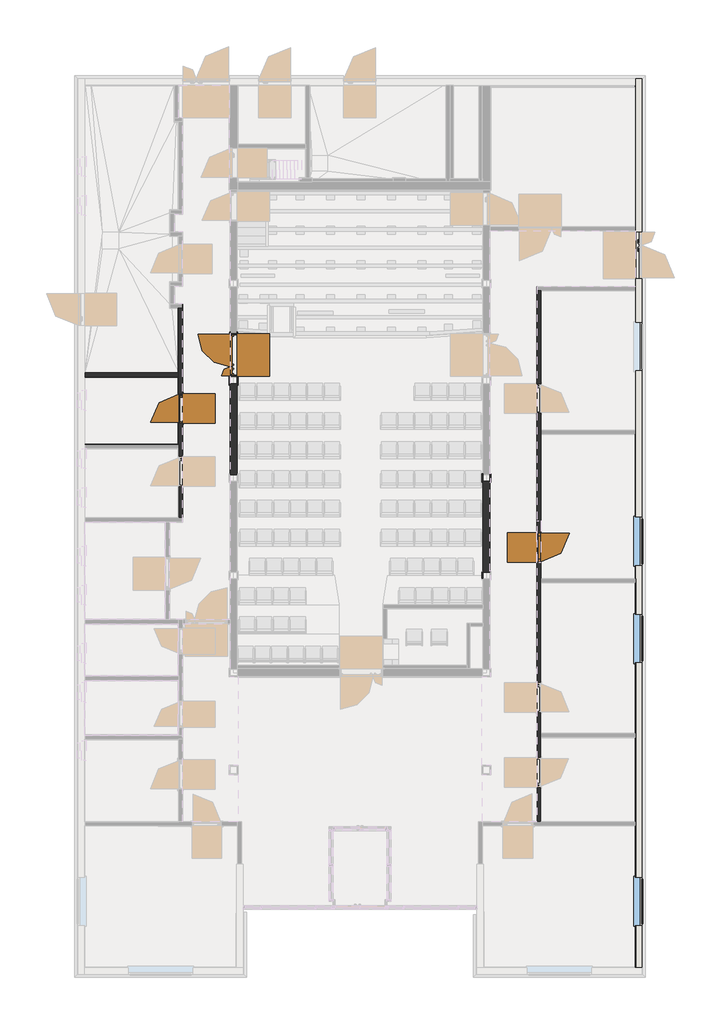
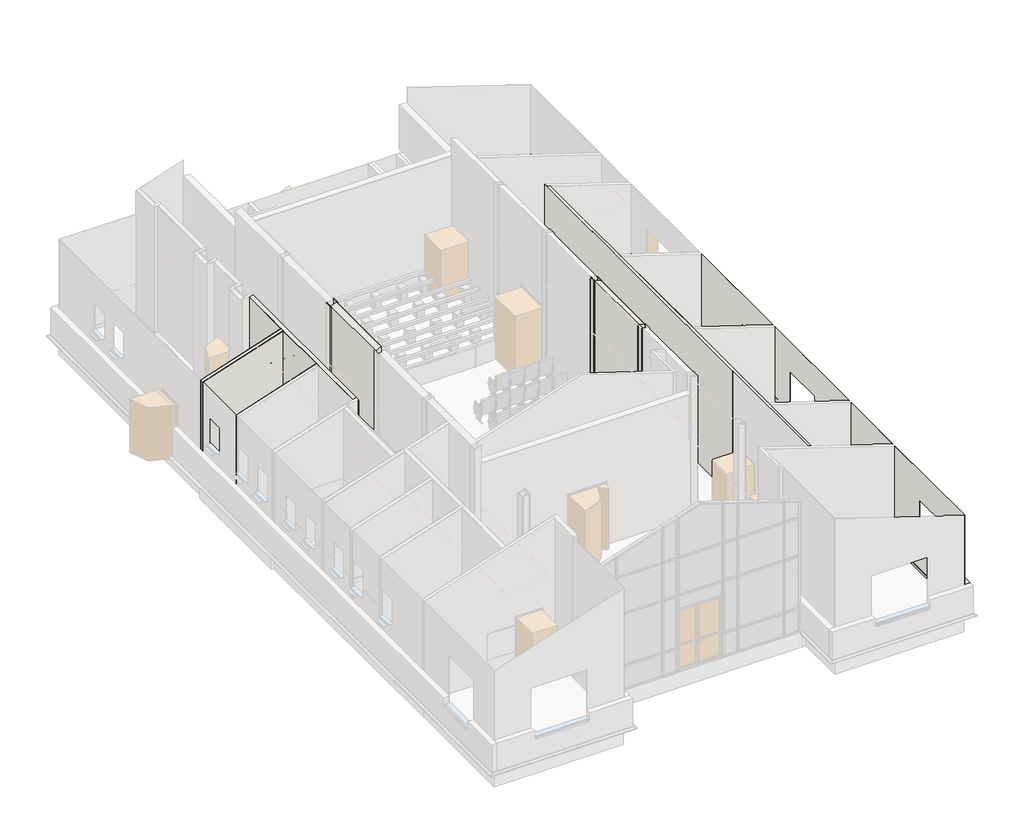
# One storey, part 6 of 12: 49 walls, 6 windows, 3 doors.
"""IFC4 building model written with IfcOpenShell, lengths in millimetres."""

from ifc_helpers import new_model, si_unit, frame, origin, place, context, project, spatial, polyline, outline, extrude, faceted_brep, transform, mapped, element, save
from components import door_b498f91c, door_23e4fe7f, door_26b594f7, window_3b6728a6, window_c86a886d

model = new_model("IFC4")

# Units and contexts
model_context = context("Model", 3, world=origin())
ifc_project = project(units=[si_unit("LENGTHUNIT", "METRE", prefix="MILLI")], contexts=[model_context])

# Site, building, storey
site = spatial("IfcSite", under=ifc_project)
building = spatial("IfcBuilding", under=site)
storey = spatial("IfcBuildingStorey", under=building, Name="Этаж 01", Elevation=0.0)

# Doors
placement = place(None, origin())
door_shape = door_b498f91c(model_context)
element("IfcDoor", 1, ObjectType="Дверь_Деревянная_Внутренняя_Двупольная_ГОСТ_475-2016 : 1310 х 2370(h)_Пр_с Порогом", at=placement, inside=storey, context=model_context, shape_type="MappedRepresentation", body=[
    mapped(door_shape, transform((4106.0630762, 18802.3933894, 0.0), x_axis=(0.0, -1.0, 0.0), y_axis=(1.0, 0.0, 0.0), z_axis=(0.0, 0.0, 1.0))),
])
door_2_shape = door_23e4fe7f(model_context)
element("IfcDoor", 2, ObjectType="Дверь_Деревянная_Внутренняя_Однопольная_ГОСТ_475-2016 : 0910 х 2070(h)_Пр_с Порогом", at=placement, inside=storey, context=model_context, shape_type="MappedRepresentation", body=[
    mapped(door_2_shape, transform((2862.0822865, 17145.0, 0.0), x_axis=(0.0, 1.0, 0.0), y_axis=(-1.0, 0.0, 0.0), z_axis=(0.0, 0.0, 1.0))),
])
door_3_shape = door_26b594f7(model_context)
element("IfcDoor", 3, ObjectType="Дверь_Противопожарная_Металлическая_Однопольная_Глухая : 910 х 2100(h)_Пр_EI30 2", at=placement, inside=storey, context=model_context, shape_type="MappedRepresentation", body=[
    mapped(door_3_shape, transform((13917.5, 12855.0, 0.0), x_axis=(0.0, -1.0, 0.0), y_axis=(1.0, 0.0, 0.0), z_axis=(0.0, 0.0, 1.0))),
])

# Walls
element("IfcWall", 4, ObjectType="ADSK_Внутренняя_Кирпич_120", at=placement, inside=storey, context=model_context, shape_type="Brep", body=[
    faceted_brep([(2925.2572865, 13770.0024506, -25.0), (2925.2572865, 20239.9176368, -25.0), (2925.2572865, 20239.9176368, -20.0), (2925.2572865, 20239.9176368, 4831.1056928), (2925.2572865, 13770.0024506, 4831.1056928), (2925.2572865, 13770.0024506, -20.0), (2925.2572865, 15649.9976367, 2070.0), (2925.2572865, 15649.9976367, 0.0), (2925.2572865, 14739.9976367, 0.0), (2925.2572865, 14739.9976367, 2070.0), (2925.2572865, 17600.0, 2070.0), (2925.2572865, 17600.0, 0.0), (2925.2572865, 16690.0, 0.0), (2925.2572865, 16690.0, 2070.0), (2805.2572865, 20239.9176368, 4792.1143962), (2805.2572865, 20239.9176368, -20.0), (2805.2572865, 20239.9176368, -25.0), (2805.2572865, 18240.0, -25.0), (2805.2572865, 18180.0, -25.0), (2805.2572865, 18180.0, -3.0), (2805.2572865, 18120.0, -3.0), (2805.2572865, 16029.9976367, -3.0), (2805.2572865, 15909.9976367, -3.0), (2805.2572865, 13770.0024506, -3.0), (2805.2572865, 13770.0024506, 0.0), (2805.2572865, 13770.0024506, 4792.1143962), (2805.2572865, 13780.0024506, 4792.1143962), (2805.2572865, 15899.9976367, 4792.1143962), (2805.2572865, 15909.9976367, 4792.1143962), (2805.2572865, 16029.9976367, 4792.1143962), (2805.2572865, 16039.9976367, 4792.1143962), (2805.2572865, 18110.0, 4792.1143962), (2805.2572865, 18120.0, 4792.1143962), (2805.2572865, 18240.0, 4792.1143962), (2805.2572865, 18250.0, 4792.1143962), (2805.2572865, 15649.9976367, 0.0), (2805.2572865, 15649.9976367, 2070.0), (2805.2572865, 14739.9976367, 2070.0), (2805.2572865, 14739.9976367, 0.0), (2805.2572865, 17600.0, 0.0), (2805.2572865, 17600.0, 2070.0), (2805.2572865, 16690.0, 2070.0), (2805.2572865, 16690.0, 0.0), (2865.2572865, 13770.0024506, -25.0), (2865.2572865, 18180.0, -25.0), (2865.2572865, 20239.9176368, -25.0), (2865.2572865, 13770.0024506, -3.0), (2865.2572865, 13770.0024506, -20.0), (2865.2572865, 18180.0, -3.0)], [[[0, 1, 2, 3, 4, 5], [6, 7, 8, 9], [10, 11, 12, 13]], [[14, 15, 16, 17, 18, 19, 20, 21, 22, 23, 24, 25, 26, 27, 28, 29, 30, 31, 32, 33, 34], [35, 36, 37, 38], [39, 40, 41, 42]], [[1, 0, 43, 44, 18, 17, 16, 45]], [[0, 5, 4, 25, 24, 23, 46, 47, 43]], [[3, 2, 1, 45, 16, 15, 14]], [[35, 7, 6, 36]], [[36, 6, 9, 37]], [[8, 38, 37, 9]], [[7, 35, 38, 8]], [[39, 11, 10, 40]], [[40, 10, 13, 41]], [[12, 42, 41, 13]], [[11, 39, 42, 12]], [[4, 3, 14, 34, 33, 32, 31, 30, 29, 28, 27, 26, 25]], [[19, 48, 46, 23, 22, 21, 20]], [[48, 19, 18, 44]], [[46, 48, 44, 43, 47]]]),
])
element("IfcWall", 5, ObjectType="ADSK_Внутренняя_Кирпич_120", at=placement, inside=storey, context=model_context, shape_type="Brep", body=[
    faceted_brep([(-100.0, 18120.0, 100.0), (-85.0, 18120.0, 100.0), (-85.0, 18120.0, -3.0), (2805.2572865, 18120.0, -3.0), (2805.2572865, 18120.0, 4792.1143962), (-100.0, 18120.0, 3848.1164919), (2805.2572865, 18240.0, -25.0), (-85.0, 18240.0, -25.0), (-85.0, 18240.0, 100.0), (-100.0, 18240.0, 100.0), (-100.0, 18240.0, 3848.1164919), (2805.2572865, 18240.0, 4792.1143962), (2805.2572865, 18180.0, -25.0), (-85.0, 18180.0, -25.0), (2805.2572865, 18180.0, -3.0), (-85.0, 18180.0, -3.0)], [[[0, 1, 2, 3, 4, 5]], [[6, 7, 8, 9, 10, 11]], [[7, 6, 12, 13]], [[6, 11, 4, 3, 14, 12]], [[9, 8, 1, 0]], [[1, 8, 7, 13, 15, 2]], [[5, 4, 11, 10]], [[9, 0, 5, 10]], [[3, 2, 15, 14]], [[12, 14, 15, 13]]]),
])
element("IfcWall", 6, ObjectType="Перегородка-КНАУФ-С362-Применение внутри здания-125/75@600 ГВЛ(ГВЛВ)  12,5", at=placement, inside=storey, context=model_context, shape_type="Brep", body=[
    faceted_brep([(13855.0, 20775.5, -20.0), (13855.0, 4399.9957095, -20.0), (13855.0, 4399.9957095, 4837.5206427), (13855.0, 4400.9957095, 4837.5206427), (13855.0, 9124.9302451, 4837.5206427), (13855.0, 20775.5, 4837.5206427), (13855.0, 13310.0, 2100.0), (13855.0, 12400.0, 2100.0), (13855.0, 12400.0, 0.0), (13855.0, 13310.0, 0.0), (13855.0, 16994.9313142, 2070.0), (13855.0, 16994.9313142, 0.0), (13855.0, 17904.9313142, 0.0), (13855.0, 17904.9313142, 2070.0), (13855.0, 5474.9957095, 2070.0), (13855.0, 5474.9957095, 0.0), (13855.0, 6374.9957095, 0.0), (13855.0, 6374.9957095, 2070.0), (13855.0, 7775.0, 2070.0), (13855.0, 7775.0, 0.0), (13855.0, 8685.0, 0.0), (13855.0, 8685.0, 2070.0), (13980.0, 4399.9957095, 4796.9047088), (13980.0, 4399.9957095, 0.0), (13980.0, 4399.9957095, -20.0), (13980.0, 7000.0, -20.0), (13980.0, 7062.5, -20.0), (13980.0, 7062.5, -3.0), (13980.0, 7125.0, -3.0), (13980.0, 11775.0, -3.0), (13980.0, 11900.0, -3.0), (13980.0, 16349.9313142, -3.0), (13980.0, 16474.9313142, -3.0), (13980.0, 20775.5, -3.0), (13980.0, 20775.5, 4796.9047088), (13980.0, 20774.5, 4796.9047088), (13980.0, 16474.9313142, 4796.9047088), (13980.0, 16349.9313142, 4796.9047088), (13980.0, 16348.9313142, 4796.9047088), (13980.0, 11900.0, 4796.9047088), (13980.0, 11775.0, 4796.9047088), (13980.0, 11774.0, 4796.9047088), (13980.0, 7125.0, 4796.9047088), (13980.0, 7000.0, 4796.9047088), (13980.0, 6999.0, 4796.9047088), (13980.0, 5474.9957095, 0.0), (13980.0, 5474.9957095, 2070.0), (13980.0, 6374.9957095, 2070.0), (13980.0, 6374.9957095, 0.0), (13980.0, 7775.0, 0.0), (13980.0, 7775.0, 2070.0), (13980.0, 8685.0, 2070.0), (13980.0, 8685.0, 0.0), (13980.0, 12400.0, 2100.0), (13980.0, 13310.0, 2100.0), (13980.0, 13310.0, 0.0), (13980.0, 12400.0, 0.0), (13980.0, 16994.9313142, 0.0), (13980.0, 16994.9313142, 2070.0), (13980.0, 17904.9313142, 2070.0), (13980.0, 17904.9313142, 0.0), (13917.5, 20775.5, -20.0), (13917.5, 7062.5, -20.0), (13917.5, 20775.5, -3.0), (13977.5, 12400.0, 2100.0), (13977.5, 13310.0, 2100.0), (13857.5, 13310.0, 2100.0), (13857.5, 12400.0, 2100.0), (13917.5, 7062.5, -3.0), (13857.5, 12392.5, 2100.0), (13857.5, 12392.5, 2320.0), (13977.5, 12392.5, 2320.0), (13977.5, 12392.5, 2100.0), (13857.5, 13682.5, 2100.0), (13977.5, 13682.5, 2100.0), (13977.5, 13682.5, 2320.0), (13857.5, 13682.5, 2320.0)], [[[0, 1, 2, 3, 4, 5], [6, 7, 8, 9], [10, 11, 12, 13], [14, 15, 16, 17], [18, 19, 20, 21]], [[22, 23, 24, 25, 26, 27, 28, 29, 30, 31, 32, 33, 34, 35, 36, 37, 38, 39, 40, 41, 42, 43, 44], [45, 46, 47, 48], [49, 50, 51, 52], [53, 54, 55, 56], [57, 58, 59, 60]], [[1, 0, 61, 62, 26, 25, 24]], [[0, 5, 34, 33, 63, 61]], [[2, 1, 24, 23, 22]], [[45, 15, 14, 46]], [[46, 14, 17, 47]], [[16, 48, 47, 17]], [[15, 45, 48, 16]], [[54, 53, 64, 65]], [[7, 6, 66, 67]], [[55, 9, 8, 56]], [[9, 55, 54, 65, 66, 6]], [[56, 8, 7, 67, 64, 53]], [[49, 19, 18, 50]], [[50, 18, 21, 51]], [[20, 52, 51, 21]], [[19, 49, 52, 20]], [[57, 11, 10, 58]], [[58, 10, 13, 59]], [[12, 60, 59, 13]], [[11, 57, 60, 12]], [[5, 4, 3, 2, 22, 44, 43, 42, 41, 40, 39, 38, 37, 36, 35, 34]], [[27, 68, 63, 33, 32, 31, 30, 29, 28]], [[68, 27, 26, 62]], [[63, 68, 62, 61]], [[69, 70, 71, 72]], [[73, 74, 75, 76]], [[69, 72, 64, 67]], [[74, 73, 66, 65]], [[72, 71, 75, 74, 65, 64]], [[71, 70, 76, 75]], [[70, 69, 67, 66, 73, 76]]]),
])
element("IfcWall", 7, ObjectType="ADSK_Наружная_Сэндвич_Утеплитель_200 RAL 8017", at=placement, inside=storey, context=model_context, shape_type="Brep", body=[
    faceted_brep([(16900.0, 21150.0, 100.0), (16900.0, 20901.5, 100.0), (16900.0, 20900.5, 100.0), (16900.0, 20775.5, 100.0), (16900.0, 20774.5, 100.0), (16900.0, 16475.9313142, 100.0), (16900.0, 16474.9313142, 100.0), (16900.0, 16349.9313142, 100.0), (16900.0, 16348.9313142, 100.0), (16900.0, 11901.0, 100.0), (16900.0, 11900.0, 100.0), (16900.0, 11775.0, 100.0), (16900.0, 11774.0, 100.0), (16900.0, 7126.0, 100.0), (16900.0, 7125.0, 100.0), (16900.0, 7000.0, 100.0), (16900.0, 6999.0, 100.0), (16900.0, 4400.9957095, 100.0), (16900.0, 4399.9957095, 100.0), (16900.0, 4274.9957095, 100.0), (16900.0, 4273.9957095, 100.0), (16900.0, -99.0, 100.0), (16900.0, -100.0, 100.0), (16900.0, -100.0, 1200.0), (16900.0, 1199.99936, 1200.0), (16900.0, 1199.99936, 900.0), (16900.0, 2699.99936, 900.0), (16900.0, 2699.99936, 1200.0), (16900.0, 9299.9992574, 1200.0), (16900.0, 9299.9992574, 900.0), (16900.0, 10799.9992574, 900.0), (16900.0, 10799.9992574, 1200.0), (16900.0, 12299.9990005, 1200.0), (16900.0, 12299.9990005, 900.0), (16900.0, 13799.9990005, 900.0), (16900.0, 13799.9990005, 1200.0), (16900.0, 18299.996604, 1200.0), (16900.0, 18299.996604, 900.0), (16900.0, 19799.996604, 900.0), (16900.0, 19799.996604, 1200.0), (16900.0, 21150.0, 1200.0), (17100.0, -100.0, 100.0), (17100.0, 21150.0, 100.0), (17100.0, 21150.0, 1200.0), (17100.0, 19799.996604, 1200.0), (17100.0, 19799.996604, 900.0), (17100.0, 19734.996604, 900.0), (17100.0, 18364.996604, 900.0), (17100.0, 18299.996604, 900.0), (17100.0, 18299.996604, 1200.0), (17100.0, 13799.9990005, 1200.0), (17100.0, 13799.9990005, 900.0), (17100.0, 13734.9990005, 900.0), (17100.0, 12364.9990005, 900.0), (17100.0, 12299.9990005, 900.0), (17100.0, 12299.9990005, 1200.0), (17100.0, 10799.9992574, 1200.0), (17100.0, 10799.9992574, 900.0), (17100.0, 10734.9992574, 900.0), (17100.0, 9364.9992574, 900.0), (17100.0, 9299.9992574, 900.0), (17100.0, 9299.9992574, 1200.0), (17100.0, 2699.99936, 1200.0), (17100.0, 2699.99936, 900.0), (17100.0, 2634.99936, 900.0), (17100.0, 1264.99936, 900.0), (17100.0, 1199.99936, 900.0), (17100.0, 1199.99936, 1200.0), (17100.0, -100.0, 1200.0)], [[[0, 1, 2, 3, 4, 5, 6, 7, 8, 9, 10, 11, 12, 13, 14, 15, 16, 17, 18, 19, 20, 21, 22, 23, 24, 25, 26, 27, 28, 29, 30, 31, 32, 33, 34, 35, 36, 37, 38, 39, 40]], [[41, 42, 43, 44, 45, 46, 47, 48, 49, 50, 51, 52, 53, 54, 55, 56, 57, 58, 59, 60, 61, 62, 63, 64, 65, 66, 67, 68]], [[22, 21, 20, 19, 18, 17, 16, 15, 14, 13, 12, 11, 10, 9, 8, 7, 6, 5, 4, 3, 2, 1, 0, 42, 41]], [[28, 27, 62, 61]], [[32, 31, 56, 55]], [[43, 40, 39, 44]], [[35, 50, 49, 36]], [[24, 23, 68, 67]], [[0, 40, 43, 42]], [[26, 63, 62, 27]], [[63, 26, 25, 66, 65, 64]], [[66, 25, 24, 67]], [[30, 57, 56, 31]], [[57, 30, 29, 60, 59, 58]], [[60, 29, 28, 61]], [[34, 51, 50, 35]], [[51, 34, 33, 54, 53, 52]], [[54, 33, 32, 55]], [[38, 45, 44, 39]], [[45, 38, 37, 48, 47, 46]], [[48, 37, 36, 49]], [[23, 22, 41, 68]]]),
    faceted_brep([(16900.0, 27300.0, 100.0), (16900.0, 27100.0, 100.0), (16900.0, 22745.0, 100.0), (16900.0, 22620.0, 100.0), (16900.0, 22590.0, 100.0), (16900.0, 22590.0, 1200.0), (16900.0, 27100.0, 1200.0), (16900.0, 27300.0, 1200.0), (17100.0, 27300.0, 1200.0), (17100.0, 22590.0, 1200.0), (17100.0, 22590.0, 100.0), (17100.0, 27300.0, 100.0)], [[[0, 1, 2, 3, 4, 5, 6, 7]], [[8, 9, 10, 11]], [[4, 3, 2, 1, 0, 11, 10]], [[7, 6, 5, 9, 8]], [[5, 4, 10, 9]], [[0, 7, 8, 11]]]),
])
element("IfcWall", 8, ObjectType="Перегородка-КНАУФ-С365-Применение внутри здания-200/75@600 ГВЛ(ГВЛВ)  12,5", at=placement, inside=storey, context=model_context, shape_type="Brep", body=[
    faceted_brep([(4395.0630762, 17900.0, -20.0), (4395.0630762, 15100.0, -20.0), (4395.0630762, 15100.0, 5308.6859716), (4395.0630762, 15133.5, 5308.6859716), (4395.0630762, 17866.5, 5308.6859716), (4395.0630762, 17900.0, 5308.6859716), (4605.0630762, 17900.0, -20.0), (4605.0630762, 17900.0, 5376.9207407), (4605.0630762, 15100.0, 5376.9207407), (4605.0630762, 15100.0, -20.0)], [[[0, 1, 2, 3, 4, 5]], [[6, 7, 8, 9]], [[1, 0, 6, 9]], [[2, 1, 9, 8]], [[0, 5, 7, 6]], [[5, 4, 3, 2, 8, 7]]]),
])
element("IfcWall", 9, ObjectType="Перегородка-КНАУФ-С365-Применение внутри здания-200/75@600 ГВЛ(ГВЛВ)  12,5", at=placement, inside=storey, context=model_context, shape_type="SweptSolid", body=[
    extrude(outline(polyline([(-20.0, 12405.0), (5308.6654765, 12405.0), (5376.9002455, 12195.0), (-5.0, 12195.0), (-5.0, 12300.0), (-20.0, 12300.0), (-20.0, 12405.0)])), frame((0.0, 12100.0, 0.0), z_axis=(0.0, 1.0, 0.0), x_axis=(0.0, 0.0, 1.0)), (0.0, 0.0, 1.0), 2800.0),
])
element("IfcWall", 10, ObjectType="ADSK_Внутренняя_Кирпич_120", at=placement, inside=storey, context=model_context, shape_type="Brep", body=[
    faceted_brep([(17005.0, 27205.0, -25.0), (17005.0, 27205.0, 100.0), (17005.0, 22590.0, 100.0), (17005.0, 22590.0, -12.5), (17005.0, 21150.0, -12.5), (17005.0, 21150.0, 100.0), (17005.0, -85.0, 100.0), (17005.0, -85.0, -20.0), (17005.0, 26955.0, -20.0), (17005.0, 26955.0, -25.0), (16885.0, 27205.0, 100.0), (16885.0, 27205.0, -25.0), (16885.0, 26955.0, -25.0), (16885.0, 26955.0, -20.0), (16885.0, 22745.0, -20.0), (16885.0, 22620.0, -20.0), (16885.0, 20900.5, -20.0), (16885.0, 20838.0, -20.0), (16885.0, 7062.5, -20.0), (16885.0, 7000.0, -20.0), (16885.0, 4399.9957095, -20.0), (16885.0, 4337.4957095, -20.0), (16885.0, -85.0, -20.0), (16885.0, -85.0, -3.0), (16885.0, -85.0, 0.0), (16885.0, -85.0, 100.0), (16885.0, 4273.9957095, 100.0), (16885.0, 4274.9957095, 100.0), (16885.0, 4399.9957095, 100.0), (16885.0, 4400.9957095, 100.0), (16885.0, 6999.0, 100.0), (16885.0, 7000.0, 100.0), (16885.0, 7125.0, 100.0), (16885.0, 7126.0, 100.0), (16885.0, 11774.0, 100.0), (16885.0, 11775.0, 100.0), (16885.0, 11900.0, 100.0), (16885.0, 11901.0, 100.0), (16885.0, 16348.9313142, 100.0), (16885.0, 16349.9313142, 100.0), (16885.0, 16474.9313142, 100.0), (16885.0, 16475.9313142, 100.0), (16885.0, 20774.5, 100.0), (16885.0, 20775.5, 100.0), (16885.0, 20900.5, 100.0), (16885.0, 20901.5, 100.0), (16885.0, 21150.0, 100.0), (16885.0, 21150.0, -12.5), (16885.0, 22590.0, -12.5), (16885.0, 22590.0, 100.0), (16885.0, 22620.0, 100.0), (16885.0, 22745.0, 100.0)], [[[0, 1, 2, 3, 4, 5, 6, 7, 8, 9]], [[10, 11, 12, 13, 14, 15, 16, 17, 18, 19, 20, 21, 22, 23, 24, 25, 26, 27, 28, 29, 30, 31, 32, 33, 34, 35, 36, 37, 38, 39, 40, 41, 42, 43, 44, 45, 46, 47, 48, 49, 50, 51]], [[11, 0, 9, 12]], [[1, 10, 51, 50, 49, 2]], [[25, 6, 5, 46, 45, 44, 43, 42, 41, 40, 39, 38, 37, 36, 35, 34, 33, 32, 31, 30, 29, 28, 27, 26]], [[1, 0, 11, 10]], [[13, 8, 7, 22, 21, 20, 19, 18, 17, 16, 15, 14]], [[8, 13, 12, 9]], [[6, 25, 24, 23, 22, 7]], [[47, 4, 3, 48]], [[48, 3, 2, 49]], [[4, 47, 46, 5]]]),
])
element("IfcWall", 11, ObjectType="Отделка - Акриловая покраска_1 мм_Улучш. штук. по кирп._9 мм", at=placement, inside=storey, context=model_context, shape_type="Brep", body=[
    faceted_brep([(2805.2572865, 18120.0, 0.0), (-100.0, 18120.0, 0.0), (-100.0, 18120.0, 3848.1164919), (2805.2572865, 18120.0, 4792.1143962), (2805.2572865, 18110.0, 0.0), (2805.2572865, 18110.0, 4792.1143962), (2795.2572865, 18110.0, 4788.8651214), (-99.0, 18110.0, 3848.4414193), (-100.0, 18110.0, 3848.1164919), (-100.0, 18110.0, 100.0), (-100.0, 18110.0, 0.0), (2795.2572865, 18110.0, 0.0)], [[[0, 1, 2, 3]], [[4, 5, 6, 7, 8, 9, 10, 11]], [[1, 0, 4, 11, 10]], [[3, 2, 8, 7, 6, 5]], [[0, 3, 5, 4]], [[2, 1, 10, 9, 8]]]),
])
element("IfcWall", 12, ObjectType="Отделка - Акриловая покраска_1 мм_Улучш. штук. по кирп._9 мм", at=placement, inside=storey, context=model_context, shape_type="Brep", body=[
    faceted_brep([(-100.0, 16029.9976367, 0.0), (2805.2572865, 16029.9976367, 0.0), (2805.2572865, 16029.9976367, 800.0), (1805.2572865, 16029.9976367, 800.0), (1805.2572865, 16029.9976367, 1800.0), (2805.2572865, 16029.9976367, 1800.0), (2805.2572865, 16029.9976367, 4792.1143962), (-100.0, 16029.9976367, 3848.1164919), (-100.0, 16039.9976367, 0.0), (-100.0, 16039.9976367, 100.0), (-100.0, 16039.9976367, 3848.1164919), (-99.0, 16039.9976367, 3848.4414193), (2795.2572865, 16039.9976367, 4788.8651214), (2805.2572865, 16039.9976367, 4792.1143962), (2805.2572865, 16039.9976367, 1800.0), (1805.2572865, 16039.9976367, 1800.0), (1805.2572865, 16039.9976367, 800.0), (2805.2572865, 16039.9976367, 800.0), (2805.2572865, 16039.9976367, 0.0), (2795.2572865, 16039.9976367, 0.0), (1805.2572865, 16037.9976367, 800.0), (1805.2572865, 16037.9976367, 1800.0)], [[[0, 1, 2, 3, 4, 5, 6, 7]], [[8, 9, 10, 11, 12, 13, 14, 15, 16, 17, 18, 19]], [[7, 6, 13, 12, 11, 10]], [[2, 1, 18, 17]], [[0, 7, 10, 9, 8]], [[1, 0, 8, 19, 18]], [[3, 2, 17, 16, 20]], [[4, 3, 20, 16, 15, 21]], [[5, 4, 21, 15, 14]], [[6, 5, 14, 13]]]),
])
element("IfcWall", 13, ObjectType="Отделка - Акриловая покраска_1 мм_Улучш. штук. по кирп._9 мм", at=placement, inside=storey, context=model_context, shape_type="Brep", body=[
    faceted_brep([(2805.2572865, 18110.0, 4792.1143962), (2805.2572865, 16039.9976367, 4792.1143962), (2805.2572865, 16039.9976367, 1800.0), (2805.2572865, 16039.9976367, 800.0), (2805.2572865, 16039.9976367, 0.0), (2805.2572865, 16690.0, 0.0), (2805.2572865, 16690.0, 2070.0), (2805.2572865, 17600.0, 2070.0), (2805.2572865, 17600.0, 0.0), (2805.2572865, 18110.0, 0.0), (2795.2572865, 16039.9976367, 4788.8651214), (2795.2572865, 18110.0, 4788.8651214), (2795.2572865, 18110.0, 0.0), (2795.2572865, 17600.0, 0.0), (2795.2572865, 17600.0, 2070.0), (2795.2572865, 16690.0, 2070.0), (2795.2572865, 16690.0, 0.0), (2795.2572865, 16039.9976367, 0.0)], [[[0, 1, 2, 3, 4, 5, 6, 7, 8, 9]], [[10, 11, 12, 13, 14, 15, 16, 17]], [[12, 9, 8, 13]], [[4, 17, 16, 5]], [[1, 0, 11, 10]], [[7, 14, 13, 8]], [[14, 7, 6, 15]], [[15, 6, 5, 16]], [[0, 9, 12, 11]], [[17, 4, 3, 2, 1, 10]]]),
])
element("IfcWall", 14, ObjectType="Отделка - Акриловая покраска_1 мм_Улучш. штук. по кирп._9 мм", at=placement, inside=storey, context=model_context, shape_type="Brep", body=[
    faceted_brep([(-100.0, 18240.0, 0.0), (2805.2572865, 18240.0, 0.0), (2805.2572865, 18240.0, 4792.1143962), (-100.0, 18240.0, 3848.1164919), (-100.0, 18250.0, 0.0), (-100.0, 18250.0, 100.0), (-100.0, 18250.0, 3848.1164919), (-99.0, 18250.0, 3848.4414193), (2795.2572865, 18250.0, 4788.8651214), (2805.2572865, 18250.0, 4792.1143962), (2805.2572865, 18250.0, 0.0), (2795.2572865, 18250.0, 0.0)], [[[0, 1, 2, 3]], [[4, 5, 6, 7, 8, 9, 10, 11]], [[1, 0, 4, 11, 10]], [[3, 2, 9, 8, 7, 6]], [[2, 1, 10, 9]], [[0, 3, 6, 5, 4]]]),
])
element("IfcWall", 15, ObjectType="Отделка - Акриловая покраска_1 мм_Улучш. штук. по кирп._9 мм", at=placement, inside=storey, context=model_context, shape_type="Brep", body=[
    faceted_brep([(2805.2572865, 18250.0, 0.0), (2805.2572865, 20239.9176368, 0.0), (2805.2572865, 20239.9176368, 4792.1143962), (2805.2572865, 18250.0, 4792.1143962), (2795.2572865, 18250.0, 0.0), (2795.2572865, 18250.0, 4788.8651214), (2795.2572865, 20239.9176368, 4788.8651214), (2795.2572865, 20239.9176368, 0.0), (2795.2572865, 20229.9176368, 0.0)], [[[0, 1, 2, 3]], [[4, 5, 6, 7, 8]], [[1, 0, 4, 8, 7]], [[0, 3, 5, 4]], [[3, 2, 6, 5]], [[2, 1, 7, 6]]]),
])
element("IfcWall", 16, ObjectType="Отделка - Акриловая покраска_1 мм_Улучш. штук. по кирп._9 мм", at=placement, inside=storey, context=model_context, shape_type="Brep", body=[
    faceted_brep([(2935.2572865, 20359.9176473, 4792.1143962), (2935.2572865, 13640.0024506, 4792.1143962), (2935.2572865, 13640.0024506, 0.0), (2935.2572865, 14739.9976367, 0.0), (2935.2572865, 14739.9976367, 2070.0), (2935.2572865, 15649.9976367, 2070.0), (2935.2572865, 15649.9976367, 0.0), (2935.2572865, 16690.0, 0.0), (2935.2572865, 16690.0, 2070.0), (2935.2572865, 17600.0, 2070.0), (2935.2572865, 17600.0, 0.0), (2935.2572865, 20359.9176473, 0.0), (2925.2572865, 13640.0024506, 4792.1143962), (2925.2572865, 13650.0024506, 4792.1143962), (2925.2572865, 20359.9176473, 4792.1143962), (2925.2572865, 20359.9176473, 0.0), (2925.2572865, 17600.0, 0.0), (2925.2572865, 17600.0, 2070.0), (2925.2572865, 16690.0, 2070.0), (2925.2572865, 16690.0, 0.0), (2925.2572865, 15649.9976367, 0.0), (2925.2572865, 15649.9976367, 2070.0), (2925.2572865, 14739.9976367, 2070.0), (2925.2572865, 14739.9976367, 0.0), (2925.2572865, 13650.0024506, 0.0), (2925.2572865, 13640.0024506, 0.0)], [[[0, 1, 2, 3, 4, 5, 6, 7, 8, 9, 10, 11]], [[12, 13, 14, 15, 16, 17, 18, 19, 20, 21, 22, 23, 24, 25]], [[2, 25, 24, 23, 3]], [[6, 20, 19, 7]], [[15, 11, 10, 16]], [[1, 0, 14, 13, 12]], [[2, 1, 12, 25]], [[5, 21, 20, 6]], [[21, 5, 4, 22]], [[22, 4, 3, 23]], [[9, 17, 16, 10]], [[17, 9, 8, 18]], [[18, 8, 7, 19]], [[0, 11, 15, 14]]]),
])
element("IfcWall", 17, ObjectType="Облицовка КНАУФ 12,5", at=placement, inside=storey, context=model_context, shape_type="Brep", body=[
    faceted_brep([(4395.0630762, 18132.5, 0.0), (4362.0630759, 18132.5, 0.0), (4362.0630759, 18132.5, 5297.963365), (4395.0630762, 18132.5, 5308.6859716), (4395.0630762, 18107.5, 0.0), (4395.0630762, 18107.5, 5308.6859716), (4387.0630759, 18107.5, 5306.0865518), (4362.0630759, 18107.5, 5297.963365), (4362.0630759, 18107.5, 0.0), (4387.0630759, 18107.5, 0.0)], [[[0, 1, 2, 3]], [[4, 5, 6, 7, 8, 9]], [[1, 0, 4, 9, 8]], [[0, 3, 5, 4]], [[2, 1, 8, 7]], [[3, 2, 7, 6, 5]]]),
])
element("IfcWall", 18, ObjectType="Облицовка КНАУФ 12,5", at=placement, inside=storey, context=model_context, shape_type="SweptSolid", body=[
    extrude(outline(polyline([(5297.963365, 4362.0630759), (0.0, 4362.0630759), (0.0, 4387.0630759), (5306.0865518, 4387.0630759), (5297.963365, 4362.0630759)])), frame((0.0, 17892.5, 0.0), z_axis=(0.0, 1.0, 0.0), x_axis=(0.0, 0.0, 1.0)), (0.0, 0.0, 1.0), 215.0),
])
element("IfcWall", 19, ObjectType="Облицовка КНАУФ 12,5", at=placement, inside=storey, context=model_context, shape_type="Brep", body=[
    faceted_brep([(4362.0630759, 17867.5, 0.0), (4395.0630762, 17867.5, 0.0), (4395.0630762, 17867.5, 5308.6859716), (4362.0630759, 17867.5, 5297.963365), (4362.0630759, 17892.5, 0.0), (4362.0630759, 17892.5, 5297.963365), (4387.0630759, 17892.5, 5306.0865518), (4395.0630762, 17892.5, 5308.6859716), (4395.0630762, 17892.5, 0.0), (4387.0630759, 17892.5, 0.0)], [[[0, 1, 2, 3]], [[4, 5, 6, 7, 8, 9]], [[1, 0, 4, 9, 8]], [[2, 1, 8, 7]], [[0, 3, 5, 4]], [[3, 2, 7, 6, 5]]]),
])
element("IfcWall", 20, ObjectType="Облицовка КНАУФ 12,5", at=placement, inside=storey, context=model_context, shape_type="Brep", body=[
    faceted_brep([(4605.0630762, 18107.5, 0.0), (4613.0630765, 18107.5, 0.0), (4638.0630765, 18107.5, 0.0), (4638.0630765, 18107.5, 5387.6433473), (4613.0630765, 18107.5, 5379.5201605), (4605.0630762, 18107.5, 5376.9207407), (4605.0630762, 18132.5, 0.0), (4605.0630762, 18132.5, 5376.9207407), (4638.0630765, 18132.5, 5387.6433473), (4638.0630765, 18132.5, 0.0)], [[[0, 1, 2, 3, 4, 5]], [[6, 7, 8, 9]], [[2, 1, 0, 6, 9]], [[0, 5, 7, 6]], [[3, 2, 9, 8]], [[5, 4, 3, 8, 7]]]),
])
element("IfcWall", 21, ObjectType="Облицовка КНАУФ 12,5", at=placement, inside=storey, context=model_context, shape_type="Brep", body=[
    faceted_brep([(4613.0630765, 18107.5, 0.0), (4613.0630765, 17892.5, 0.0), (4613.0630765, 17867.5, 0.0), (4613.0630765, 17867.5, 5379.5201605), (4613.0630765, 17892.5, 5379.5201605), (4613.0630765, 18107.5, 5379.5201605), (4638.0630765, 18107.5, 0.0), (4638.0630765, 18107.5, 5387.6433473), (4638.0630765, 17867.5, 5387.6433473), (4638.0630765, 17867.5, 0.0)], [[[0, 1, 2, 3, 4, 5]], [[6, 7, 8, 9]], [[2, 1, 0, 6, 9]], [[3, 2, 9, 8]], [[0, 5, 7, 6]], [[5, 4, 3, 8, 7]]]),
])
element("IfcWall", 22, ObjectType="Облицовка КНАУФ 12,5", at=placement, inside=storey, context=model_context, shape_type="SweptSolid", body=[
    extrude(outline(polyline([(0.0, 4613.0630765), (5379.5201605, 4613.0630765), (5376.9207407, 4605.0630762), (0.0, 4605.0630762), (0.0, 4613.0630765)])), frame((0.0, 17867.5, 0.0), z_axis=(0.0, 1.0, 0.0), x_axis=(0.0, 0.0, 1.0)), (0.0, 0.0, 1.0), 25.0),
])
element("IfcWall", 23, ObjectType="Отделка - Акриловая покраска по Кнауф-суперлистам_1 мм", at=placement, inside=storey, context=model_context, shape_type="Brep", body=[
    faceted_brep([(13980.0, 11900.0, 4796.9047088), (13980.0, 16348.9313142, 4796.9047088), (13980.0, 16348.9313142, 0.0), (13980.0, 13310.0, 0.0), (13980.0, 13310.0, 2100.0), (13980.0, 12400.0, 2100.0), (13980.0, 12400.0, 0.0), (13980.0, 11900.0, 0.0), (13981.0, 16348.9313142, 4796.5797813), (13981.0, 11901.0, 4796.5797813), (13981.0, 11900.0, 4796.5797813), (13981.0, 11900.0, 0.0), (13981.0, 11901.0, 0.0), (13981.0, 12400.0, 0.0), (13981.0, 12400.0, 2100.0), (13981.0, 13310.0, 2100.0), (13981.0, 13310.0, 0.0), (13981.0, 16348.9313142, 0.0)], [[[0, 1, 2, 3, 4, 5, 6, 7]], [[8, 9, 10, 11, 12, 13, 14, 15, 16, 17]], [[11, 7, 6, 13, 12]], [[2, 17, 16, 3]], [[14, 5, 4, 15]], [[15, 4, 3, 16]], [[5, 14, 13, 6]], [[1, 0, 10, 9, 8]], [[0, 7, 11, 10]], [[2, 1, 8, 17]]]),
])
element("IfcWall", 24, ObjectType="Отделка - Заводское покрытие сэндвич-панелей", at=placement, inside=storey, context=model_context, shape_type="Brep", body=[
    faceted_brep([(16900.0, -99.0, 100.0), (16900.0, 4274.9957095, 100.0), (16900.0, 4274.9957095, 3848.1164919), (16900.0, 4274.9957095, 3850.0), (16900.0, -99.0, 3850.0), (16900.0, -99.0, 3848.1164919), (16900.0, 1199.99936, 2700.0), (16900.0, 2699.99936, 2700.0), (16900.0, 2699.99936, 1200.0), (16900.0, 2699.99936, 900.0), (16900.0, 1199.99936, 900.0), (16900.0, 1199.99936, 1200.0), (16899.0, 4274.9957095, 100.0), (16899.0, -99.0, 100.0), (16899.0, -99.0, 3850.0), (16899.0, 4274.9957095, 3850.0), (16899.0, 2699.99936, 2700.0), (16899.0, 1199.99936, 2700.0), (16899.0, 1199.99936, 900.0), (16899.0, 2699.99936, 900.0)], [[[0, 1, 2, 3, 4, 5], [6, 7, 8, 9, 10, 11]], [[12, 13, 14, 15], [16, 17, 18, 19]], [[1, 0, 13, 12]], [[4, 3, 15, 14]], [[3, 2, 1, 12, 15]], [[0, 5, 4, 14, 13]], [[6, 17, 16, 7]], [[7, 16, 19, 9, 8]], [[9, 19, 18, 10]], [[17, 6, 11, 10, 18]]]),
])
element("IfcWall", 25, ObjectType="Отделка - Заводское покрытие сэндвич-панелей", at=placement, inside=storey, context=model_context, shape_type="Brep", body=[
    faceted_brep([(16900.0, 4399.9957095, 100.0), (16900.0, 7000.0, 100.0), (16900.0, 7000.0, 3848.1164919), (16900.0, 7000.0, 3850.0), (16900.0, 4399.9957095, 3850.0), (16900.0, 4399.9957095, 3848.1164919), (16899.0, 4399.9957095, 100.0), (16899.0, 4399.9957095, 3850.0), (16899.0, 7000.0, 3850.0), (16899.0, 7000.0, 100.0)], [[[0, 1, 2, 3, 4, 5]], [[6, 7, 8, 9]], [[1, 0, 6, 9]], [[4, 3, 8, 7]], [[0, 5, 4, 7, 6]], [[3, 2, 1, 9, 8]]]),
])
element("IfcWall", 26, ObjectType="Отделка - Заводское покрытие сэндвич-панелей", at=placement, inside=storey, context=model_context, shape_type="Brep", body=[
    faceted_brep([(16900.0, 7126.0, 100.0), (16900.0, 11775.0, 100.0), (16900.0, 11775.0, 3848.1164919), (16900.0, 11775.0, 3850.0), (16900.0, 7126.0, 3850.0), (16900.0, 7126.0, 3848.1164919), (16900.0, 9299.9992574, 2700.0), (16900.0, 10799.9992574, 2700.0), (16900.0, 10799.9992574, 1200.0), (16900.0, 10799.9992574, 900.0), (16900.0, 9299.9992574, 900.0), (16900.0, 9299.9992574, 1200.0), (16899.0, 11775.0, 100.0), (16899.0, 7126.0, 100.0), (16899.0, 7126.0, 3850.0), (16899.0, 11775.0, 3850.0), (16899.0, 10799.9992574, 2700.0), (16899.0, 9299.9992574, 2700.0), (16899.0, 9299.9992574, 900.0), (16899.0, 10799.9992574, 900.0)], [[[0, 1, 2, 3, 4, 5], [6, 7, 8, 9, 10, 11]], [[12, 13, 14, 15], [16, 17, 18, 19]], [[1, 0, 13, 12]], [[4, 3, 15, 14]], [[3, 2, 1, 12, 15]], [[0, 5, 4, 14, 13]], [[6, 17, 16, 7]], [[7, 16, 19, 9, 8]], [[9, 19, 18, 10]], [[17, 6, 11, 10, 18]]]),
])
element("IfcWall", 27, ObjectType="Отделка - Заводское покрытие сэндвич-панелей", at=placement, inside=storey, context=model_context, shape_type="Brep", body=[
    faceted_brep([(16900.0, 11900.0, 100.0), (16900.0, 16349.9313142, 100.0), (16900.0, 16349.9313142, 3848.1164919), (16900.0, 16349.9313142, 3850.0), (16900.0, 11900.0, 3850.0), (16900.0, 11900.0, 3848.1164919), (16900.0, 12299.9990005, 2700.0), (16900.0, 13799.9990005, 2700.0), (16900.0, 13799.9990005, 1200.0), (16900.0, 13799.9990005, 900.0), (16900.0, 12299.9990005, 900.0), (16900.0, 12299.9990005, 1200.0), (16899.0, 16349.9313142, 100.0), (16899.0, 11900.0, 100.0), (16899.0, 11900.0, 3850.0), (16899.0, 16349.9313142, 3850.0), (16899.0, 13799.9990005, 2700.0), (16899.0, 12299.9990005, 2700.0), (16899.0, 12299.9990005, 900.0), (16899.0, 13799.9990005, 900.0)], [[[0, 1, 2, 3, 4, 5], [6, 7, 8, 9, 10, 11]], [[12, 13, 14, 15], [16, 17, 18, 19]], [[1, 0, 13, 12]], [[4, 3, 15, 14]], [[0, 5, 4, 14, 13]], [[3, 2, 1, 12, 15]], [[6, 17, 16, 7]], [[7, 16, 19, 9, 8]], [[9, 19, 18, 10]], [[17, 6, 11, 10, 18]]]),
])
element("IfcWall", 28, ObjectType="Облицовка КНАУФ 12,5", at=placement, inside=storey, context=model_context, shape_type="Brep", body=[
    faceted_brep([(12195.0, 15132.5, 0.0), (12161.9999997, 15132.5, 0.0), (12161.9999997, 15132.5, 5387.6228521), (12195.0, 15132.5, 5376.9002455), (12195.0, 15107.5, 0.0), (12195.0, 15107.5, 5376.9002455), (12186.9999997, 15107.5, 5379.4996654), (12161.9999997, 15107.5, 5387.6228521), (12161.9999997, 15107.5, 0.0), (12186.9999997, 15107.5, 0.0)], [[[0, 1, 2, 3]], [[4, 5, 6, 7, 8, 9]], [[1, 0, 4, 9, 8]], [[0, 3, 5, 4]], [[2, 1, 8, 7]], [[3, 2, 7, 6, 5]]]),
])
element("IfcWall", 29, ObjectType="Облицовка КНАУФ 12,5", at=placement, inside=storey, context=model_context, shape_type="SweptSolid", body=[
    extrude(outline(polyline([(5387.6228521, 12161.9999997), (0.0, 12161.9999997), (0.0, 12186.9999997), (5379.4996654, 12186.9999997), (5387.6228521, 12161.9999997)])), frame((0.0, 14892.5, 0.0), z_axis=(0.0, 1.0, 0.0), x_axis=(0.0, 0.0, 1.0)), (0.0, 0.0, 1.0), 215.0),
])
element("IfcWall", 30, ObjectType="Облицовка КНАУФ 12,5", at=placement, inside=storey, context=model_context, shape_type="Brep", body=[
    faceted_brep([(12161.9999997, 14867.5, 0.0), (12195.0, 14867.5, 0.0), (12195.0, 14867.5, 5376.9002455), (12161.9999997, 14867.5, 5387.6228521), (12161.9999997, 14892.5, 0.0), (12161.9999997, 14892.5, 5387.6228521), (12186.9999997, 14892.5, 5379.4996654), (12195.0, 14892.5, 5376.9002455), (12195.0, 14892.5, 0.0), (12186.9999997, 14892.5, 0.0)], [[[0, 1, 2, 3]], [[4, 5, 6, 7, 8, 9]], [[1, 0, 4, 9, 8]], [[2, 1, 8, 7]], [[0, 3, 5, 4]], [[3, 2, 7, 6, 5]]]),
])
element("IfcWall", 31, ObjectType="Облицовка КНАУФ 12,5", at=placement, inside=storey, context=model_context, shape_type="Brep", body=[
    faceted_brep([(12405.0, 15107.5, 0.0), (12413.0000003, 15107.5, 0.0), (12438.0000003, 15107.5, 0.0), (12438.0000003, 15107.5, 5297.9428698), (12413.0000003, 15107.5, 5306.0660566), (12405.0, 15107.5, 5308.6654765), (12405.0, 15132.5, 0.0), (12405.0, 15132.5, 5308.6654765), (12438.0000003, 15132.5, 5297.9428698), (12438.0000003, 15132.5, 0.0)], [[[0, 1, 2, 3, 4, 5]], [[6, 7, 8, 9]], [[2, 1, 0, 6, 9]], [[0, 5, 7, 6]], [[3, 2, 9, 8]], [[5, 4, 3, 8, 7]]]),
])
element("IfcWall", 32, ObjectType="Облицовка КНАУФ 12,5", at=placement, inside=storey, context=model_context, shape_type="Brep", body=[
    faceted_brep([(12413.0000003, 15107.5, 0.0), (12413.0000003, 14892.5, 0.0), (12413.0000003, 14867.5, 0.0), (12413.0000003, 14867.5, 5306.0660566), (12413.0000003, 14892.5, 5306.0660566), (12413.0000003, 15107.5, 5306.0660566), (12438.0000003, 15107.5, 0.0), (12438.0000003, 15107.5, 5297.9428698), (12438.0000003, 14867.5, 5297.9428698), (12438.0000003, 14867.5, 0.0)], [[[0, 1, 2, 3, 4, 5]], [[6, 7, 8, 9]], [[2, 1, 0, 6, 9]], [[3, 2, 9, 8]], [[0, 5, 7, 6]], [[5, 4, 3, 8, 7]]]),
])
element("IfcWall", 33, ObjectType="Облицовка КНАУФ 12,5", at=placement, inside=storey, context=model_context, shape_type="SweptSolid", body=[
    extrude(outline(polyline([(0.0, 12413.0000003), (5306.0660566, 12413.0000003), (5308.6654765, 12405.0), (0.0, 12405.0), (0.0, 12413.0000003)])), frame((0.0, 14867.5, 0.0), z_axis=(0.0, 1.0, 0.0), x_axis=(0.0, 0.0, 1.0)), (0.0, 0.0, 1.0), 25.0),
])
element("IfcWall", 34, ObjectType="Облицовка КНАУФ 12,5", at=placement, inside=storey, context=model_context, shape_type="SweptSolid", body=[
    extrude(outline(polyline([(5387.6228521, 12161.9999997), (0.0, 12161.9999997), (0.0, 12186.9999997), (5379.4996654, 12186.9999997), (5387.6228521, 12161.9999997)])), frame((0.0, 11892.5, 0.0), z_axis=(0.0, 1.0, 0.0), x_axis=(0.0, 0.0, 1.0)), (0.0, 0.0, 1.0), 215.0),
])
element("IfcWall", 35, ObjectType="Облицовка КНАУФ 12,5", at=placement, inside=storey, context=model_context, shape_type="Brep", body=[
    faceted_brep([(12405.0, 12107.5, 0.0), (12413.0000003, 12107.5, 0.0), (12438.0000003, 12107.5, 0.0), (12438.0000003, 12107.5, 5297.9428698), (12413.0000003, 12107.5, 5306.0660566), (12405.0, 12107.5, 5308.6654765), (12405.0, 12132.5, 0.0), (12405.0, 12132.5, 5308.6654765), (12438.0000003, 12132.5, 5297.9428698), (12438.0000003, 12132.5, 0.0)], [[[0, 1, 2, 3, 4, 5]], [[6, 7, 8, 9]], [[2, 1, 0, 6, 9]], [[0, 5, 7, 6]], [[3, 2, 9, 8]], [[5, 4, 3, 8, 7]]]),
])
element("IfcWall", 36, ObjectType="Отделка - Акриловая покраска по Кнауф-суперлистам_1 мм", at=placement, inside=storey, context=model_context, shape_type="Brep", body=[
    faceted_brep([(4395.0630762, 17867.5, 0.0), (4362.0630762, 17867.5, 0.0), (4361.0630762, 17867.5, 0.0), (4361.0630762, 17867.5, 5297.6384376), (4362.0630762, 17867.5, 5297.9633651), (4395.0630762, 17867.5, 5308.6859716), (4395.0630762, 17866.5, 0.0), (4395.0630762, 17866.5, 5308.6859716), (4394.0630762, 17866.5, 5308.3610442), (4361.0630762, 17866.5, 5297.6384376), (4361.0630762, 17866.5, 0.0), (4394.0630762, 17866.5, 0.0)], [[[0, 1, 2, 3, 4, 5]], [[6, 7, 8, 9, 10, 11]], [[2, 1, 0, 6, 11, 10]], [[3, 2, 10, 9]], [[0, 5, 7, 6]], [[5, 4, 3, 9, 8, 7]]]),
])
element("IfcWall", 37, ObjectType="Отделка - Акриловая покраска по Кнауф-суперлистам_1 мм", at=placement, inside=storey, context=model_context, shape_type="SweptSolid", body=[
    extrude(outline(polyline([(0.0, 4395.0630762), (5308.6859716, 4395.0630762), (5308.3610442, 4394.0630762), (0.0, 4394.0630762), (0.0, 4395.0630762)])), frame((0.0, 15133.5, 0.0), z_axis=(0.0, 1.0, 0.0), x_axis=(0.0, 0.0, 1.0)), (0.0, 0.0, 1.0), 2733.0),
])
element("IfcWall", 38, ObjectType="Отделка - Акриловая покраска по Кнауф-суперлистам_1 мм", at=placement, inside=storey, context=model_context, shape_type="Brep", body=[
    faceted_brep([(13855.0, 9124.9302451, 4837.5206427), (13855.0, 9124.9302451, 0.0), (13855.0, 12400.0, 0.0), (13855.0, 12400.0, 2100.0), (13855.0, 13310.0, 2100.0), (13855.0, 13310.0, 0.0), (13855.0, 16994.9313142, 0.0), (13855.0, 16994.9313142, 2070.0), (13855.0, 17904.9313142, 2070.0), (13855.0, 17904.9313142, 0.0), (13855.0, 20900.5, 0.0), (13855.0, 20901.5, 0.0), (13855.0, 20901.5, 4837.5206427), (13855.0, 20900.5, 4837.5206427), (13855.0, 20775.5, 4837.5206427), (13854.0, 9124.9302451, 0.0), (13854.0, 9124.9302451, 4837.8455702), (13854.0, 20901.5, 4837.8455702), (13854.0, 20901.5, 0.0), (13854.0, 17904.9313142, 0.0), (13854.0, 17904.9313142, 2070.0), (13854.0, 16994.9313142, 2070.0), (13854.0, 16994.9313142, 0.0), (13854.0, 13310.0, 0.0), (13854.0, 13310.0, 2100.0), (13854.0, 12400.0, 2100.0), (13854.0, 12400.0, 0.0)], [[[0, 1, 2, 3, 4, 5, 6, 7, 8, 9, 10, 11, 12, 13, 14]], [[15, 16, 17, 18, 19, 20, 21, 22, 23, 24, 25, 26]], [[18, 11, 10, 9, 19]], [[1, 15, 26, 2]], [[5, 23, 22, 6]], [[1, 0, 16, 15]], [[12, 11, 18, 17]], [[0, 14, 13, 12, 17, 16]], [[3, 25, 24, 4]], [[4, 24, 23, 5]], [[25, 3, 2, 26]], [[21, 7, 6, 22]], [[7, 21, 20, 8]], [[8, 20, 19, 9]]]),
])
element("IfcWall", 39, ObjectType="Отделка - Акриловая покраска по Кнауф-суперлистам_1 мм", at=placement, inside=storey, context=model_context, shape_type="Brep", body=[
    faceted_brep([(12406.0, 15132.0, 0.0), (12437.5, 15132.0, 0.0), (12438.5, 15132.0, 0.0), (12438.5, 15132.0, 5297.7804062), (12437.5, 15132.0, 5298.1053336), (12406.0, 15132.0, 5308.340549), (12406.0, 15133.0, 0.0), (12406.0, 15133.0, 5308.340549), (12438.5, 15133.0, 5297.7804062), (12438.5, 15133.0, 0.0)], [[[0, 1, 2, 3, 4, 5]], [[6, 7, 8, 9]], [[2, 1, 0, 6, 9]], [[3, 2, 9, 8]], [[0, 5, 7, 6]], [[5, 4, 3, 8, 7]]]),
])
element("IfcWall", 40, ObjectType="Отделка - Акриловая покраска по Кнауф-суперлистам_1 мм", at=placement, inside=storey, context=model_context, shape_type="Brep", body=[
    faceted_brep([(12437.5, 15132.0, 0.0), (12437.5, 14867.5, 0.0), (12437.5, 14866.5, 0.0), (12437.5, 14866.5, 5298.1053336), (12437.5, 14867.5, 5298.1053336), (12437.5, 15132.0, 5298.1053336), (12438.5, 15132.0, 0.0), (12438.5, 15132.0, 5297.7804062), (12438.5, 14866.5, 5297.7804062), (12438.5, 14866.5, 0.0)], [[[0, 1, 2, 3, 4, 5]], [[6, 7, 8, 9]], [[2, 1, 0, 6, 9]], [[0, 5, 7, 6]], [[3, 2, 9, 8]], [[5, 4, 3, 8, 7]]]),
])
element("IfcWall", 41, ObjectType="Отделка - Акриловая покраска по Кнауф-суперлистам_1 мм", at=placement, inside=storey, context=model_context, shape_type="Brep", body=[
    faceted_brep([(12437.5, 14867.5, 0.0), (12405.0, 14867.5, 0.0), (12405.0, 14867.5, 5308.6654765), (12437.5, 14867.5, 5298.1053336), (12437.5, 14866.5, 0.0), (12437.5, 14866.5, 5298.1053336), (12406.0, 14866.5, 5308.340549), (12405.0, 14866.5, 5308.6654765), (12405.0, 14866.5, 0.0), (12406.0, 14866.5, 0.0)], [[[0, 1, 2, 3]], [[4, 5, 6, 7, 8, 9]], [[1, 0, 4, 9, 8]], [[0, 3, 5, 4]], [[2, 1, 8, 7]], [[3, 2, 7, 6, 5]]]),
])
element("IfcWall", 42, ObjectType="Отделка - Акриловая покраска по Кнауф-суперлистам_1 мм", at=placement, inside=storey, context=model_context, shape_type="Brep", body=[
    faceted_brep([(12405.0, 14866.5, 0.0), (12405.0, 12132.0, 0.0), (12405.0, 12132.0, 5308.6654765), (12405.0, 14866.5, 5308.6654765), (12406.0, 14866.5, 0.0), (12406.0, 14866.5, 5308.340549), (12406.0, 12133.0, 5308.340549), (12406.0, 12132.0, 5308.340549), (12406.0, 12132.0, 0.0), (12406.0, 12133.0, 0.0)], [[[0, 1, 2, 3]], [[4, 5, 6, 7, 8, 9]], [[1, 0, 4, 9, 8]], [[2, 1, 8, 7]], [[0, 3, 5, 4]], [[3, 2, 7, 6, 5]]]),
])
element("IfcWall", 43, ObjectType="Отделка - Акриловая покраска по Кнауф-суперлистам_1 мм", at=placement, inside=storey, context=model_context, shape_type="Brep", body=[
    faceted_brep([(12406.0, 12132.0, 0.0), (12437.5, 12132.0, 0.0), (12438.5, 12132.0, 0.0), (12438.5, 12132.0, 5297.7804062), (12437.5, 12132.0, 5298.1053336), (12406.0, 12132.0, 5308.340549), (12406.0, 12133.0, 0.0), (12406.0, 12133.0, 5308.340549), (12438.5, 12133.0, 5297.7804062), (12438.5, 12133.0, 0.0)], [[[0, 1, 2, 3, 4, 5]], [[6, 7, 8, 9]], [[2, 1, 0, 6, 9]], [[3, 2, 9, 8]], [[0, 5, 7, 6]], [[5, 4, 3, 8, 7]]]),
])
element("IfcWall", 44, ObjectType="Отделка - Акриловая покраска по Кнауф-суперлистам_1 мм", at=placement, inside=storey, context=model_context, shape_type="SweptSolid", body=[
    extrude(outline(polyline([(0.0, 12162.5), (5387.4603883, 12162.5), (5387.7853158, 12161.5), (0.0, 12161.5), (0.0, 12162.5)])), frame((0.0, 11868.0, 0.0), z_axis=(0.0, 1.0, 0.0), x_axis=(0.0, 0.0, 1.0)), (0.0, 0.0, 1.0), 264.0),
])
element("IfcWall", 45, ObjectType="Отделка - Акриловая покраска по Кнауф-суперлистам_1 мм", at=placement, inside=storey, context=model_context, shape_type="SweptSolid", body=[
    extrude(outline(polyline([(0.0, 12162.5), (0.0, 12195.0), (5376.9002455, 12195.0), (5387.4603883, 12162.5), (0.0, 12162.5)])), frame((0.0, 12132.0, 0.0), z_axis=(0.0, 1.0, 0.0), x_axis=(0.0, 0.0, 1.0)), (0.0, 0.0, 1.0), 1.0),
])
element("IfcWall", 46, ObjectType="Отделка - Акриловая покраска по Кнауф-суперлистам_1 мм", at=placement, inside=storey, context=model_context, shape_type="SweptSolid", body=[
    extrude(outline(polyline([(0.0, 12195.0), (5376.9002455, 12195.0), (5377.225173, 12194.0), (0.0, 12194.0), (0.0, 12195.0)])), frame((0.0, 12132.0, 0.0), z_axis=(0.0, 1.0, 0.0), x_axis=(0.0, 0.0, 1.0)), (0.0, 0.0, 1.0), 2736.0),
])
element("IfcWall", 47, ObjectType="Отделка - Акриловая покраска по Кнауф-суперлистам_1 мм", at=placement, inside=storey, context=model_context, shape_type="SweptSolid", body=[
    extrude(outline(polyline([(0.0, 12195.0), (5376.9002455, 12195.0), (5387.4603883, 12162.5), (0.0, 12162.5), (0.0, 12195.0)])), frame((0.0, 14867.0, 0.0), z_axis=(0.0, 1.0, 0.0), x_axis=(0.0, 0.0, 1.0)), (0.0, 0.0, 1.0), 1.0),
])
element("IfcWall", 48, ObjectType="Отделка - Акриловая покраска по Кнауф-суперлистам_1 мм", at=placement, inside=storey, context=model_context, shape_type="SweptSolid", body=[
    extrude(outline(polyline([(0.0, 12162.5), (5387.4603883, 12162.5), (5387.7853158, 12161.5), (0.0, 12161.5), (0.0, 12162.5)])), frame((0.0, 14868.0, 0.0), z_axis=(0.0, 1.0, 0.0), x_axis=(0.0, 0.0, 1.0)), (0.0, 0.0, 1.0), 264.0),
])
element("IfcWall", 49, ObjectType="Отделка - Акриловая покраска по Кнауф-суперлистам_1 мм", at=placement, inside=storey, context=model_context, shape_type="SweptSolid", body=[
    extrude(outline(polyline([(0.0, 12162.5), (0.0, 12195.0), (5376.9002455, 12195.0), (5387.4603883, 12162.5), (0.0, 12162.5)])), frame((0.0, 15132.0, 0.0), z_axis=(0.0, 1.0, 0.0), x_axis=(0.0, 0.0, 1.0)), (0.0, 0.0, 1.0), 1.0),
])
element("IfcWall", 50, ObjectType="Отделка - Акриловая покраска по Кнауф-суперлистам_1 мм", at=placement, inside=storey, context=model_context, shape_type="Brep", body=[
    faceted_brep([(4639.0630765, 17867.5, 0.0), (4638.0630765, 17867.5, 0.0), (4605.0630762, 17867.5, 0.0), (4605.0630762, 17867.5, 5376.9207407), (4638.0630765, 17867.5, 5387.6433473), (4639.0630765, 17867.5, 5387.9682748), (4639.0630765, 17866.5, 0.0), (4639.0630765, 17866.5, 5387.9682748), (4606.0630762, 17866.5, 5377.2456681), (4605.0630762, 17866.5, 5376.9207407), (4605.0630762, 17866.5, 0.0), (4606.0630762, 17866.5, 0.0)], [[[0, 1, 2, 3, 4, 5]], [[6, 7, 8, 9, 10, 11]], [[2, 1, 0, 6, 11, 10]], [[5, 4, 3, 9, 8, 7]], [[0, 5, 7, 6]], [[3, 2, 10, 9]]]),
])
element("IfcWall", 51, ObjectType="Отделка - Акриловая покраска по Кнауф-суперлистам_1 мм", at=placement, inside=storey, context=model_context, shape_type="SweptSolid", body=[
    extrude(outline(polyline([(5376.9207407, 4605.0630762), (0.0, 4605.0630762), (0.0, 4606.0630762), (5377.2456681, 4606.0630762), (5376.9207407, 4605.0630762)])), frame((0.0, 15133.5, 0.0), z_axis=(0.0, 1.0, 0.0), x_axis=(0.0, 0.0, 1.0)), (0.0, 0.0, 1.0), 2733.0),
])
element("IfcWall", 52, ObjectType="Отделка - Керамическая плитка h=2 м", at=placement, inside=storey, context=model_context, shape_type="SweptSolid", body=[
    extrude(outline(polyline([(1805.2572865, 16037.9976367), (2805.2572865, 16037.9976367), (2805.2572865, 16029.9976367), (1805.2572865, 16029.9976367), (1805.2572865, 16037.9976367)])), frame((0.0, 0.0, 800.0), z_axis=(0.0, 0.0, 1.0), x_axis=(1.0, 0.0, 0.0)), (0.0, 0.0, 1.0), 1000.0),
])

# Windows
window_shape = window_3b6728a6(model_context)
element("IfcWindow", 53, ObjectType="В2В_Подоконник_ПВХ : ОК 2", at=placement, inside=storey, context=model_context, shape_type="MappedRepresentation", body=[
    mapped(window_shape, transform((17030.0, 1949.99936, 920.0), x_axis=(0.0, -1.0, 0.0), y_axis=(1.0, 0.0, 0.0), z_axis=(0.0, 0.0, 1.0))),
])
element("IfcWindow", 54, ObjectType="В2В_Подоконник_ПВХ : ОК 2", at=placement, inside=storey, context=model_context, shape_type="MappedRepresentation", body=[
    mapped(window_shape, transform((17030.0, 10049.9992574, 920.0), x_axis=(0.0, -1.0, 0.0), y_axis=(1.0, 0.0, 0.0), z_axis=(0.0, 0.0, 1.0))),
])
element("IfcWindow", 55, ObjectType="В2В_Подоконник_ПВХ : ОК 2", at=placement, inside=storey, context=model_context, shape_type="MappedRepresentation", body=[
    mapped(window_shape, transform((17030.0, 13049.9990005, 920.0), x_axis=(0.0, -1.0, 0.0), y_axis=(1.0, 0.0, 0.0), z_axis=(0.0, 0.0, 1.0))),
])
window_2_shape = window_c86a886d(model_context)
element("IfcWindow", 56, ObjectType="B2B_Отлив : Отлив_металлический", at=placement, inside=storey, context=model_context, shape_type="MappedRepresentation", body=[
    mapped(window_2_shape, transform((17100.0, 1949.99936, 900.0), x_axis=(0.0, -1.0, 0.0), y_axis=(1.0, 0.0, 0.0), z_axis=(0.0, 0.0, 1.0))),
])
element("IfcWindow", 57, ObjectType="B2B_Отлив : Отлив_металлический", at=placement, inside=storey, context=model_context, shape_type="MappedRepresentation", body=[
    mapped(window_2_shape, transform((17100.0, 10049.9992574, 900.0), x_axis=(0.0, -1.0, 0.0), y_axis=(1.0, 0.0, 0.0), z_axis=(0.0, 0.0, 1.0))),
])
element("IfcWindow", 58, ObjectType="B2B_Отлив : Отлив_металлический", at=placement, inside=storey, context=model_context, shape_type="MappedRepresentation", body=[
    mapped(window_2_shape, transform((17100.0, 13049.9990005, 900.0), x_axis=(0.0, -1.0, 0.0), y_axis=(1.0, 0.0, 0.0), z_axis=(0.0, 0.0, 1.0))),
])

save(model, "model.ifc")
